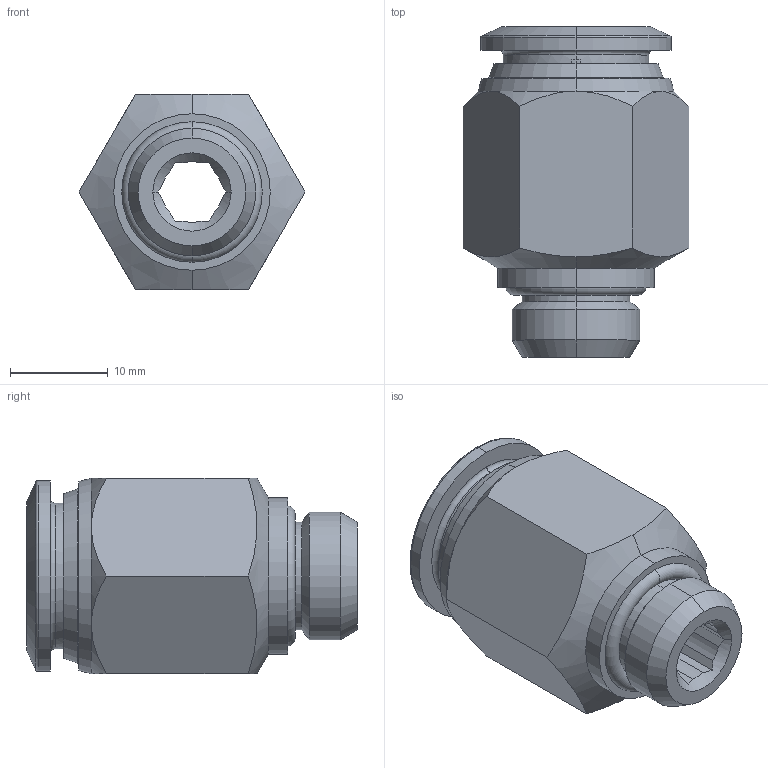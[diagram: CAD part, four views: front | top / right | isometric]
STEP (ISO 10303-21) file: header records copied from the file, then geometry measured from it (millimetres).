
FILE_DESCRIPTION (( 'STEP AP214' ), '1' );
FILE_NAME ('40020V0032A.STEP', '2024-10-21T13:55:57', ( '' ), ( '' ), 'SwSTEP 2.0', 'SolidWorks 2020', '' );
FILE_SCHEMA (( 'AUTOMOTIVE_DESIGN' ));
Length unit declared in the file: millimetre
Products named in the file (1): 40020V0032A
Bounding box: 23.09 x 33.8 x 20 mm (x, y, z)
Volume: 6029.5 mm3; surface area: 3785.2 mm2
Topology: 1 solids, 1 shells, 79 faces, 191 edges, 118 vertices
Faces by surface type: plane 30, cone 22, cylinder 21, torus 6
Entity records: 3310 total; most frequent: CARTESIAN_POINT 608, DIRECTION 387, ORIENTED_EDGE 382, EDGE_CURVE 191, AXIS2_PLACEMENT_3D 156, VERTEX_POINT 118, EDGE_LOOP 85, FACE_OUTER_BOUND 79
